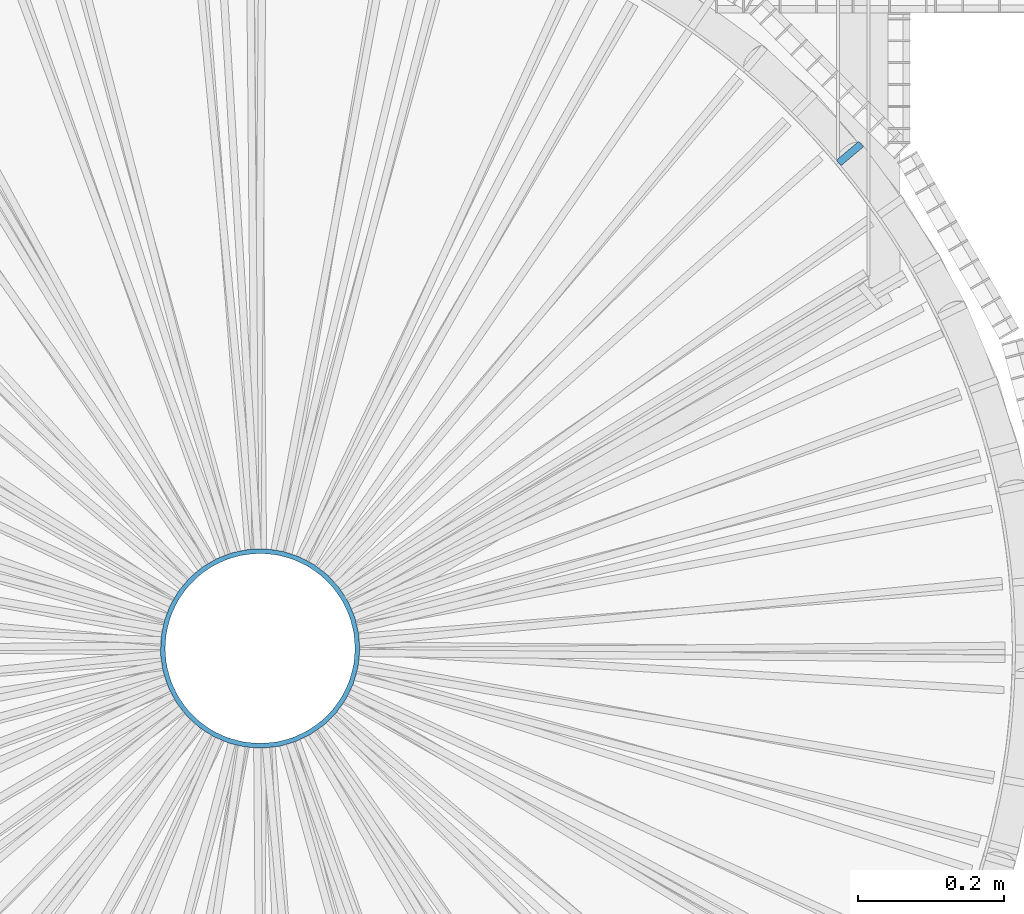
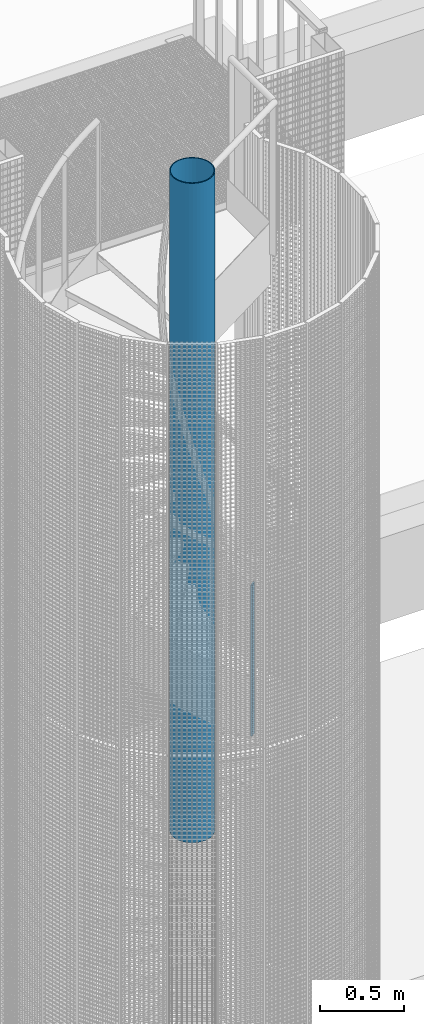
# One storey, part 50 of 1183: 2 columns, 2 elements without a shape of their own.
"""IFC2X3 building model written with IfcOpenShell, lengths in millimetres."""

from ifc_helpers import new_model, si_unit, frame, origin_with_axes, origin_2d_with_axis, place, context, subcontext, project, spatial, rectangle, hollow_circle, extrude, material, type_object, element, aggregate, save


model = new_model("IFC2X3")

# Units and contexts
model_context = context("Model", 3, precision=1e-05, world=origin_with_axes())
body_context = subcontext(model_context, "Body", "Model", "MODEL_VIEW")
ifc_project = project(units=[si_unit("LENGTHUNIT", "METRE", prefix="MILLI"), si_unit("AREAUNIT", "SQUARE_METRE"), si_unit("VOLUMEUNIT", "CUBIC_METRE"), si_unit("MASSUNIT", "GRAM", prefix="KILO"), si_unit("TIMEUNIT", "SECOND"), si_unit("PLANEANGLEUNIT", "RADIAN"), si_unit("SOLIDANGLEUNIT", "STERADIAN"), si_unit("THERMODYNAMICTEMPERATUREUNIT", "DEGREE_CELSIUS"), si_unit("LUMINOUSINTENSITYUNIT", "LUMEN")], contexts=[model_context])

# Site, building, storey
site_placement = place(None, origin_with_axes())
site = spatial("IfcSite", under=ifc_project, at=site_placement, Name="Undefined", CompositionType="ELEMENT")
building_placement = place(site_placement, origin_with_axes())
building = spatial("IfcBuilding", under=site, at=building_placement, Name="Undefined", CompositionType="ELEMENT")
storey_placement = place(building_placement, origin_with_axes())
storey = spatial("IfcBuildingStorey", under=building, at=storey_placement, Name="Undefined", CompositionType="ELEMENT", Elevation=0.0)

# Assembly, column
assembly_1_placement = place(storey_placement, origin_with_axes())
assembly_1 = element("IfcElementAssembly", 1, at=assembly_1_placement, inside=storey, Name="MONTANT", AssemblyPlace="NOTDEFINED", PredefinedType="NOTDEFINED")
ifc_material = material(Name="STEEL/S235JR")
column_type_1 = type_object("IfcColumnType", Name="PL10*40", PredefinedType="NOTDEFINED")
column_1_placement = place(assembly_1_placement, frame((22407.4108430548, 677.498140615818, 13690.0), z_axis=(0.0, 0.0, 1.0), x_axis=(-0.76604444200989, -0.642787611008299, 0.0)))
column_1 = element("IfcColumn", 2, at=column_1_placement, type_object=column_type_1, material=ifc_material, Name="MONTANT", context=body_context, shape_type="SweptSolid", body=[
    extrude(rectangle(XDim=10.0, YDim=40.0, at=origin_2d_with_axis()), frame((0.0, 0.0, 1100.0), z_axis=(0.0, 0.0, -1.0), x_axis=(0.0, 1.0, 0.0)), (0.0, 0.0, 1.0), 1100.0),
])
aggregate(assembly_1, [column_1])

assembly_2_placement = place(storey_placement, origin_with_axes())
assembly_2 = element("IfcElementAssembly", 3, at=assembly_2_placement, inside=storey, Name="POTEAU", AssemblyPlace="NOTDEFINED", PredefinedType="NOTDEFINED")
column_type_2 = type_object("IfcColumnType", Name="TUBE-273*6.3", PredefinedType="NOTDEFINED")
column_2_placement = place(assembly_2_placement, frame((21600.0, 0.0, 13690.0), z_axis=(0.0, 0.0, 1.0), x_axis=(-0.76604444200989, -0.642787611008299, 0.0)))
column_2 = element("IfcColumn", 4, at=column_2_placement, type_object=column_type_2, material=ifc_material, Name="POTEAU", context=body_context, shape_type="SweptSolid", body=[
    extrude(hollow_circle(Radius=136.5, WallThickness=6.3, at=origin_2d_with_axis()), frame((0.0, 0.0, 4800.0), z_axis=(0.0, 0.0, -1.0), x_axis=(0.0, 1.0, 0.0)), (0.0, 0.0, 1.0), 4800.0),
])
aggregate(assembly_2, [column_2])

save(model, "model.ifc")
